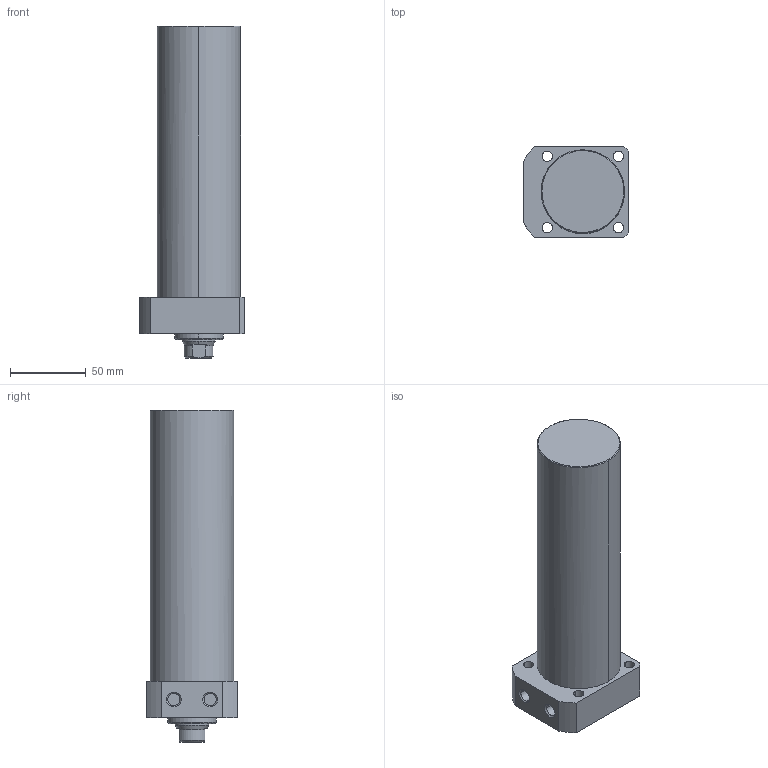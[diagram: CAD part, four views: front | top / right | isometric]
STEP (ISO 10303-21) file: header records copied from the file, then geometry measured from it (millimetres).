
FILE_DESCRIPTION((' '),'2;1');
FILE_NAME( 'TLLR-055CA-150.STEP.stp', '2025-10-24T16:34:44', (' '), ('--- Datakit www.datakit.com---'), ' Datakit CrossCadWare V2024.1 Dec 21 2023', 'Mastercam 2025', ' ');
FILE_SCHEMA(('AUTOMOTIVE_DESIGN { 1 0 10303 214 1 1 1 1 }'));
Length unit declared in the file: millimetre
Products named in the file (1): TLLR-055CA-150
Bounding box: 69 x 60 x 219 mm (x, y, z)
Volume: 522901 mm3; surface area: 49216 mm2
Topology: 1 solids, 1 shells, 63 faces, 177 edges, 122 vertices
Faces by surface type: cylinder 28, plane 19, cone 14, torus 2
Entity records: 2164 total; most frequent: CARTESIAN_POINT 401, DIRECTION 400, ORIENTED_EDGE 350, EDGE_CURVE 175, AXIS2_PLACEMENT_3D 169, VERTEX_POINT 122, CIRCLE 105, EDGE_LOOP 79
